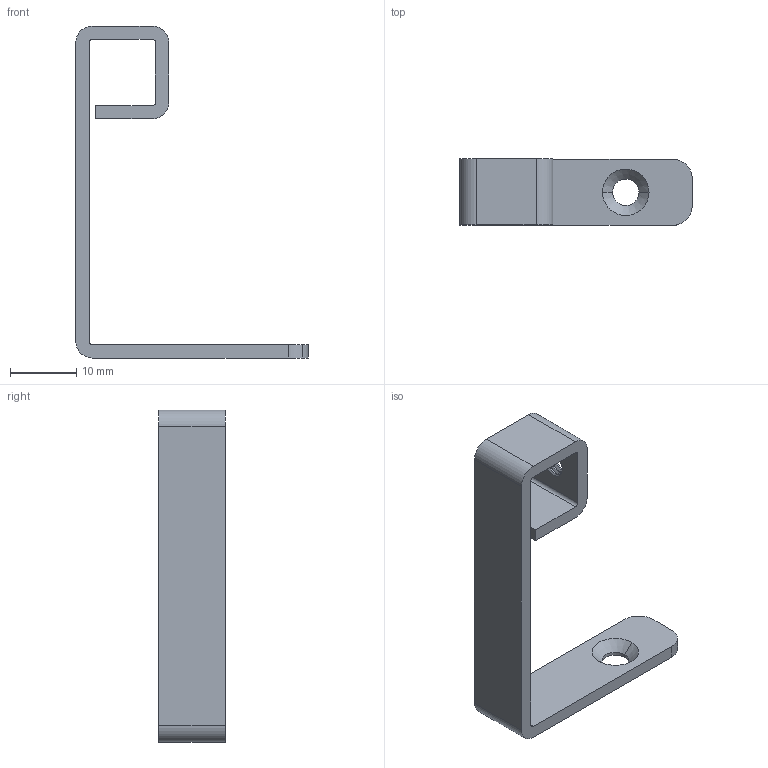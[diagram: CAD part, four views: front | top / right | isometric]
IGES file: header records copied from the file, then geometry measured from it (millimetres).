
Start section: 3D InterOp IGES (v. 2022 1.0.1), Spatial Corp. Copyright (c) 1999-2020.
Global section: file name: Q503-F.igs; native system: Spatial Corp.; preprocessor: 3D InterOp GENERIC/IGES 3.0; author: Noname; organization: Noname; date: 20260518.094831; units: millimetre
Bounding box: 35 x 10 x 50 mm (x, y, z)
Volume: 2197.1 mm3; surface area: 2758 mm2
Topology: 1 solids, 1 shells, 46 faces, 142 edges, 98 vertices
Faces by surface type: cylinder 28, extrusion 14, bspline 2, cone 2
